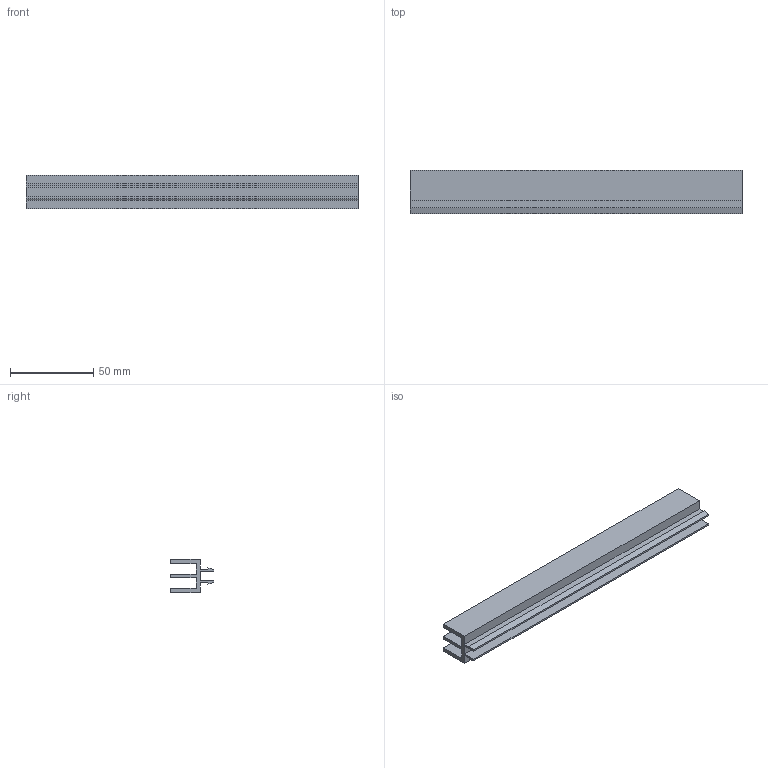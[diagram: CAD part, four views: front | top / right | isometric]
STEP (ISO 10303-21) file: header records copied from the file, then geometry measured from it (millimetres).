
FILE_DESCRIPTION (( 'STEP AP214' ), '1' );
FILE_NAME ('1.6024 Paneeliliuku 2.STEP', '2024-03-13T09:33:45', ( '' ), ( '' ), 'SwSTEP 2.0', 'SolidWorks 2024', '' );
FILE_SCHEMA (( 'AUTOMOTIVE_DESIGN' ));
Length unit declared in the file: millimetre
Products named in the file (1): 1.6024 Paneeliliuku 2
Bounding box: 200 x 26 x 20 mm (x, y, z)
Volume: 35600 mm3; surface area: 34812 mm2
Topology: 1 solids, 1 shells, 26 faces, 72 edges, 48 vertices
Faces by surface type: plane 26
Entity records: 1125 total; most frequent: CARTESIAN_POINT 147, ORIENTED_EDGE 144, DIRECTION 126, VECTOR 72, LINE 72, EDGE_CURVE 72, VERTEX_POINT 48, UNCERTAINTY_MEASURE_WITH_UNIT 28
